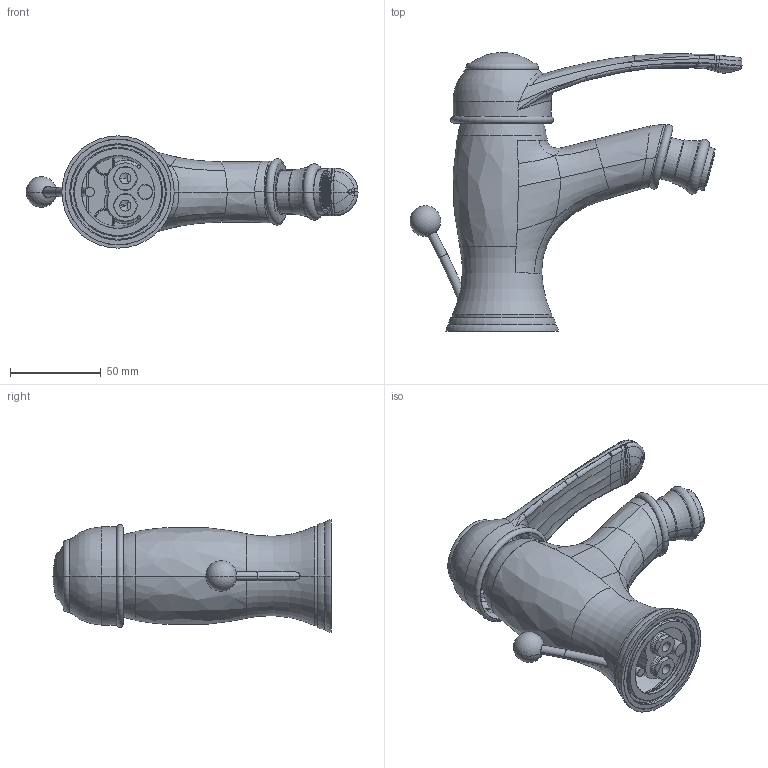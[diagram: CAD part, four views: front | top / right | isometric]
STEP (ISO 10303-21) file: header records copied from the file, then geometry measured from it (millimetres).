
FILE_DESCRIPTION((''),'2;1');
FILE_NAME('29103_SW0001','2026-05-15T15:28:12',('carloff'),(''),'CREO PARAMETRIC BY PTC INC, 2022014','CREO PARAMETRIC BY PTC INC, 2022014','');
FILE_SCHEMA(('CONFIG_CONTROL_DESIGN'));
Products named in the file (1): 29103_SW0001
Bounding box: 182.69 x 153.41 x 61.8 mm (x, y, z)
Volume: 205790.2 mm3; surface area: 127695.4 mm2
Topology: 3 solids, 4 shells, 4576 faces, 14499 edges, 8135 vertices
Faces by surface type: plane 2749, cylinder 824, bspline 480, torus 346, cone 137, sphere 40
Entity records: 193623 total; most frequent: CARTESIAN_POINT 67805, ORIENTED_EDGE 28958, DIRECTION 24196, EDGE_CURVE 14479, VECTOR 9994, LINE 9994, VERTEX_POINT 8136, AXIS2_PLACEMENT_3D 7101
